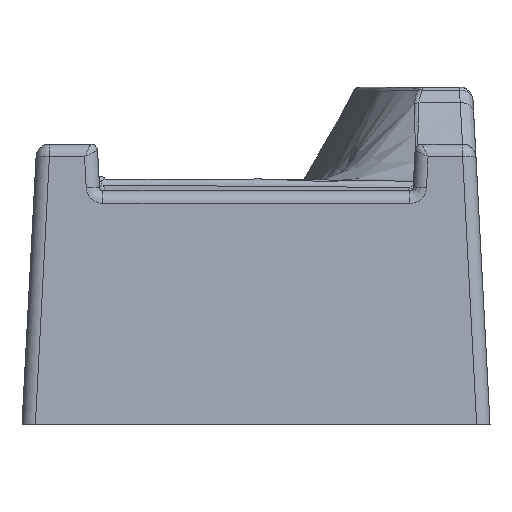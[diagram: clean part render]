
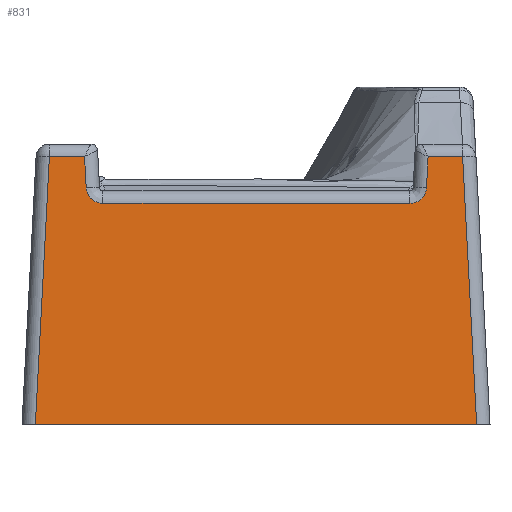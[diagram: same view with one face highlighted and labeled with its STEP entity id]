
A CAD part, front view. The second image highlights one B-rep face of the part: STEP entity #831.
In plain terms, the highlighted planar face has unit normal (0, -0.999, 0.052).
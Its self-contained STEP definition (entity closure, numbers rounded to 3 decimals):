
#754=ELLIPSE('',#4579,2.503,2.5);
#755=ELLIPSE('',#4580,2.503,2.5);
#831=ADVANCED_FACE('',(#1173),#1130,.T.);
#1130=PLANE('',#4581);
#1173=FACE_OUTER_BOUND('',#1478,.T.);
#1478=EDGE_LOOP('',(#1934,#1935,#1936,#1937,#1938,#1939,#1940,#1941,#1942,
#1943));
#1934=ORIENTED_EDGE('',*,*,#3527,.F.);
#1935=ORIENTED_EDGE('',*,*,#3659,.T.);
#1936=ORIENTED_EDGE('',*,*,#3660,.T.);
#1937=ORIENTED_EDGE('',*,*,#3661,.T.);
#1938=ORIENTED_EDGE('',*,*,#3662,.T.);
#1939=ORIENTED_EDGE('',*,*,#3663,.T.);
#1940=ORIENTED_EDGE('',*,*,#3664,.T.);
#1941=ORIENTED_EDGE('',*,*,#3665,.T.);
#1942=ORIENTED_EDGE('',*,*,#3666,.T.);
#1943=ORIENTED_EDGE('',*,*,#3667,.T.);
#3146=VERTEX_POINT('',#6152);
#3147=VERTEX_POINT('',#6154);
#3274=VERTEX_POINT('',#12537);
#3275=VERTEX_POINT('',#12539);
#3276=VERTEX_POINT('',#12541);
#3277=VERTEX_POINT('',#12543);
#3278=VERTEX_POINT('',#12545);
#3279=VERTEX_POINT('',#12547);
#3280=VERTEX_POINT('',#12549);
#3281=VERTEX_POINT('',#12551);
#3527=EDGE_CURVE('',#3146,#3147,#4197,.T.);
#3659=EDGE_CURVE('',#3146,#3274,#4255,.T.);
#3660=EDGE_CURVE('',#3274,#3275,#4256,.T.);
#3661=EDGE_CURVE('',#3275,#3276,#4257,.T.);
#3662=EDGE_CURVE('',#3276,#3277,#754,.T.);
#3663=EDGE_CURVE('',#3277,#3278,#4258,.T.);
#3664=EDGE_CURVE('',#3278,#3279,#755,.T.);
#3665=EDGE_CURVE('',#3279,#3280,#4259,.T.);
#3666=EDGE_CURVE('',#3280,#3281,#4260,.T.);
#3667=EDGE_CURVE('',#3281,#3147,#4261,.T.);
#4197=LINE('',#6153,#4380);
#4255=LINE('',#12536,#4438);
#4256=LINE('',#12538,#4439);
#4257=LINE('',#12540,#4440);
#4258=LINE('',#12544,#4441);
#4259=LINE('',#12548,#4442);
#4260=LINE('',#12550,#4443);
#4261=LINE('',#12552,#4444);
#4380=VECTOR('',#5045,1.);
#4438=VECTOR('',#5167,1.);
#4439=VECTOR('',#5168,1.);
#4440=VECTOR('',#5169,1.);
#4441=VECTOR('',#5172,1.);
#4442=VECTOR('',#5175,1.);
#4443=VECTOR('',#5176,1.);
#4444=VECTOR('',#5177,1.);
#4579=AXIS2_PLACEMENT_3D('',#12542,#5170,#5171);
#4580=AXIS2_PLACEMENT_3D('',#12546,#5173,#5174);
#4581=AXIS2_PLACEMENT_3D('',#12553,#5178,#5179);
#5045=DIRECTION('',(-1.,0.,0.));
#5167=DIRECTION('',(-0.052,0.052,0.997));
#5168=DIRECTION('',(-1.,0.,0.));
#5169=DIRECTION('',(-0.052,-0.052,-0.997));
#5170=DIRECTION('',(0.,0.999,-0.052));
#5171=DIRECTION('',(0.,-0.052,-0.999));
#5172=DIRECTION('',(-1.,0.,0.));
#5173=DIRECTION('',(0.,0.999,-0.052));
#5174=DIRECTION('',(0.,-0.052,-0.999));
#5175=DIRECTION('',(-0.052,0.052,0.997));
#5176=DIRECTION('',(-1.,0.,0.));
#5177=DIRECTION('',(-0.052,-0.052,-0.997));
#5178=DIRECTION('',(0.,-0.999,0.052));
#5179=DIRECTION('',(0.,-0.052,-0.999));
#6152=CARTESIAN_POINT('',(33.218,-90.206,-35.548));
#6153=CARTESIAN_POINT('',(50.235,-90.206,-35.548));
#6154=CARTESIAN_POINT('',(-32.747,-90.206,-35.548));
#12536=CARTESIAN_POINT('',(33.264,-90.253,-36.435));
#12537=CARTESIAN_POINT('',(31.117,-88.106,4.536));
#12538=CARTESIAN_POINT('',(50.235,-88.106,4.536));
#12539=CARTESIAN_POINT('',(25.962,-88.106,4.536));
#12540=CARTESIAN_POINT('',(23.933,-90.134,-34.173));
#12541=CARTESIAN_POINT('',(25.721,-88.347,-0.074));
#12542=CARTESIAN_POINT('',(23.224,-88.34,0.057));
#12543=CARTESIAN_POINT('',(23.224,-88.471,-2.443));
#12544=CARTESIAN_POINT('',(50.235,-88.471,-2.443));
#12545=CARTESIAN_POINT('',(-22.653,-88.471,-2.443));
#12546=CARTESIAN_POINT('',(-22.653,-88.34,0.057));
#12547=CARTESIAN_POINT('',(-25.15,-88.347,-0.074));
#12548=CARTESIAN_POINT('',(-23.09,-90.407,-39.38));
#12549=CARTESIAN_POINT('',(-25.391,-88.106,4.536));
#12550=CARTESIAN_POINT('',(50.235,-88.106,4.536));
#12551=CARTESIAN_POINT('',(-30.646,-88.106,4.536));
#12552=CARTESIAN_POINT('',(-32.52,-89.98,-31.223));
#12553=CARTESIAN_POINT('',(50.235,-90.206,-35.548));
